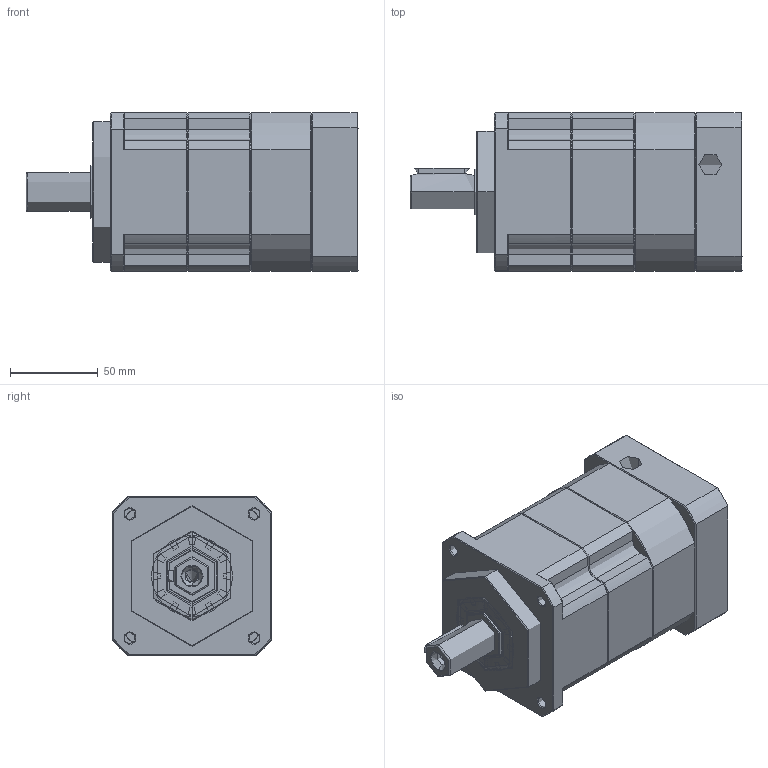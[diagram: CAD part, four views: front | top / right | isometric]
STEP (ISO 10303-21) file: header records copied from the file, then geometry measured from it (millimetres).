
FILE_DESCRIPTION (( 'STEP AP214' ), '1' );
FILE_NAME ('ZPB090-D22-L2-P1-19-70-90-M5.step', '2024-06-07T18:20:59', ( 'Windows 蚚誧' ), ( 'Organization' ), 'SwSTEP 2.0', 'SolidWorks 2016', '' );
FILE_SCHEMA (( 'AUTOMOTIVE_DESIGN' ));
Length unit declared in the file: millimetre
Products named in the file (1): ZPB090-D22-L2-P1-19-70-90-M5
Bounding box: 189 x 90 x 90 mm (x, y, z)
Topology: 0 solids, 37 shells, 1889 faces, 4984 edges, 3159 vertices
Faces by surface type: plane 972, bspline 388, cone 291, cylinder 236, torus 2
Full cylindrical faces by diameter (mm): 6.72 x1
Entity records: 96378 total; most frequent: CARTESIAN_POINT 47987, ORIENTED_EDGE 9919, DIRECTION 7705, EDGE_CURVE 4980, LINE 3277, VECTOR 3277, VERTEX_POINT 3157, AXIS2_PLACEMENT_3D 2214
